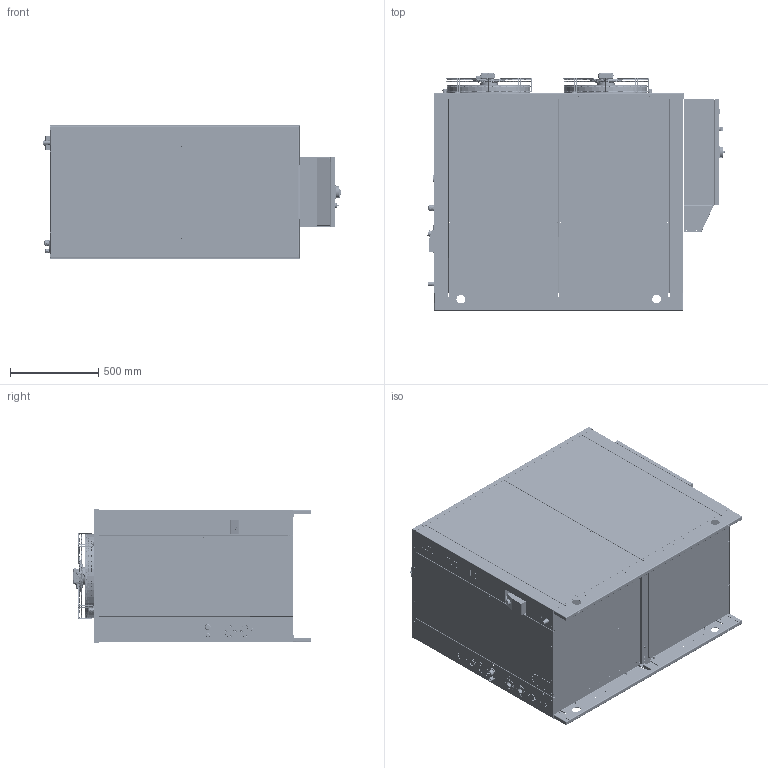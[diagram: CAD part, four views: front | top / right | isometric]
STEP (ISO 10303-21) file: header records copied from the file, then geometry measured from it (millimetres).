
FILE_DESCRIPTION (( 'STEP AP214' ), '1' );
FILE_NAME ('50-3D-00014 + UL-CSA.STEP', '2018-12-12T11:34:30', ( 'Utente' ), ( 'Microsoft' ), 'SwSTEP 2.0', 'SolidWorks 2013', '' );
FILE_SCHEMA (( 'AUTOMOTIVE_DESIGN' ));
Length unit declared in the file: millimetre
Products named in the file (64): CR-2D-00004_000; PG 13.5_1_Socket-1.209.1300.14-Nelco; VR-3D-00004_001; SW3dPS-rotary switch_Dial; CR-3D-00002_000; PG 13.5_2_Nut-PA-Grey-24-24-27-Nelco; Rivelox M5 Reduced Head Hexagonal Shank..; SW3dPS-rotary switch_Cowling; Welding stud DIN32501-1 M6X15 INOX; VR-3D-00021_000; SW3dPS-rotary switch_Screw; Rivelox M6 Reduced Head Hexagonal Shank; VR-2D-00008_001; SW3dPS-rotary switch_Indicator Plate; VR-3D-00003_001; SW3dPS-rotary switch_541-0057-B; CR-3D-00008_000; VR-2D-00005_001; RIVELOX M5; TE-EL-00007 - EW_971_230V; QE 400x600x200; CR-3D-00007_000; VR-2D-00006_001; MA-N1-00001_MANOMETRO ACQUA 40mm 0-12 BAR; Rivelox M5 Reduced Head Hexagonal Shank._; 50-3D-00014 + UL-CSA; VR-2D-00014_000; ST-AT-00020_003; pg-21 nelco_Cable-Gland-1.209.2100.15-Nelco; VR-2D-00013_001; CR-3D-00011_000; pg-21 nelco_part2_Nut-PA-Grey-33-33-31-Nelco; VR-2D-00012_000; CR-3D-00006_000; Rivelox M5 Reduced Head Hexagonal Shank; pg-21 nelco_part1_Socket-1.209.2100.15-Nelco; VR-2D-00011_000; VR-2D-00034_001; Rivelox M5 Reduced Head Hexagonal Shank.; QE 400x600x200 + COMPONENTI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
Assembly tree (160 placements, depth 4):
  50-3D-00014 + UL-CSA
    VR-3D-00003_001
      VR-3D-00003_001
      RIVELOX M5  x30
    VR-3D-00004_001
      VR-3D-00004_001
      Rivelox M5 Reduced Head Hexagonal Shank..  x4
    CR-3D-00005_000  x2
    VR-2D-00011_000
      VR-2D-00011_000
      Rivelox M5 Reduced Head Hexagonal Shank.  x8
    VR-2D-00012_000
      VR-2D-00012_000
      Rivelox M5 Reduced Head Hexagonal Shank.  x8
    VR-2D-00013_001
      VR-2D-00013_001
      Rivelox M5 Reduced Head Hexagonal Shank.  x5
    VR-2D-00014_000
      VR-2D-00014_000
      Rivelox M5 Reduced Head Hexagonal Shank.  x5
    CR-3D-00007_000
      CR-3D-00007_000
      Rivelox M5 Reduced Head Hexagonal Shank..  x4
    CR-3D-00008_000
      CR-3D-00008_000
      Rivelox M5 Reduced Head Hexagonal Shank..  x4
    CR-3D-00002_000
      CR-3D-00002_000
      Rivelox M5 Reduced Head Hexagonal Shank..  x6
      Rivelox M6 Reduced Head Hexagonal Shank  x4
      Welding stud DIN32501-1 M6X15 INOX
    CR-2D-00004_000
    VR-3D-00015_001
      VR-3D-00015_001A
      VR-3D-00015_001B  x2
    CR-3D-00006_000
      CR-3D-00006_000
      Rivelox M5 Reduced Head Hexagonal Shank  x4
    CR-3D-00011_000  x2
      CR-3D-00011_000
      Rivelox M5 Reduced Head Hexagonal Shank.
    VR-2D-00006_001  x2
      VR-2D-00006_001
      Rivelox M5 Reduced Head Hexagonal Shank._
    VR-2D-00005_001  x2
      VR-2D-00005_001
      Rivelox M5 Reduced Head Hexagonal Shank.
    VR-2D-00008_001
      VR-2D-00008_001
      Rivelox M5 Reduced Head Hexagonal Shank.  x2
    VR-3D-00021_000
    PG 13.5_Cable-Gland-1.209.1300.14-Nelco  x3
      PG 13.5_2_Nut-PA-Grey-24-24-27-Nelco
      PG 13.5_1_Socket-1.209.1300.14-Nelco
    SE-RP-00013_FIGURINO
    VE-W3-00001  x2
    pg-21 nelco_Cable-Gland-1.209.2100.15-Nelco
      pg-21 nelco_part1_Socket-1.209.2100.15-Nelco
      pg-21 nelco_part2_Nut-PA-Grey-33-33-31-Nelco
    ST-AT-00020_003  x2
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Bounding box: 1682.04 x 1343.76 x 754.5 mm (x, y, z)
Volume: 15364651.6 mm3; surface area: 25625474 mm2
Topology: 156 solids, 386 shells, 13150 faces, 41772 edges, 28630 vertices
Faces by surface type: plane 6753, bspline 2743, cylinder 2629, cone 905, torus 120
Entity records: 451932 total; most frequent: CARTESIAN_POINT 226310, ORIENTED_EDGE 41721, DIRECTION 34468, EDGE_CURVE 23569, VERTEX_POINT 16037, LINE 12780, VECTOR 12780, AXIS2_PLACEMENT_3D 10844
